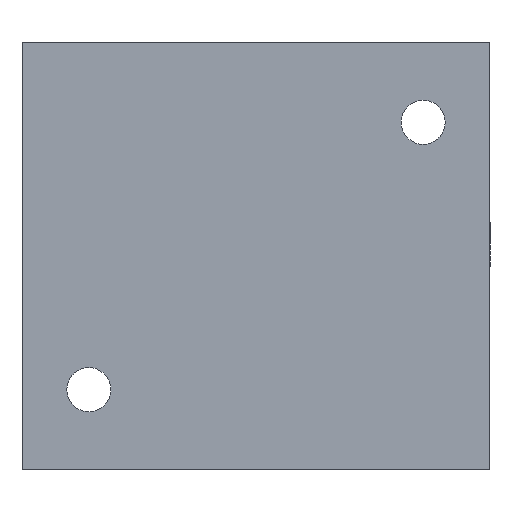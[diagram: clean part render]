
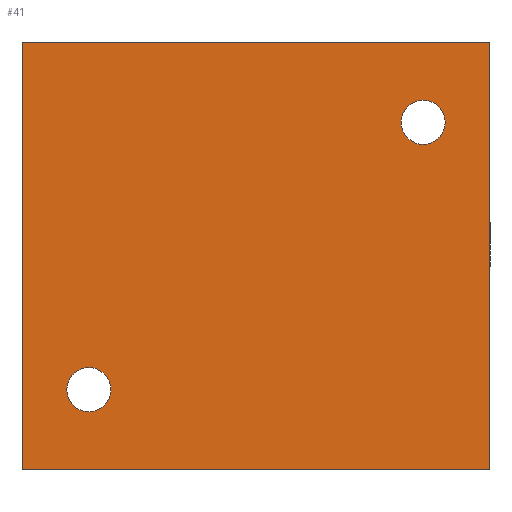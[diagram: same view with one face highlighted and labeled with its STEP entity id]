
A CAD part, front view. The second image highlights one B-rep face of the part: STEP entity #41.
In plain terms, the highlighted planar face has unit normal (0, -1, 0).
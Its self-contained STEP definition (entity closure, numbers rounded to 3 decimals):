
#15 = AXIS2_PLACEMENT_3D ( 'NONE', #529, #1664, #976 ) ;
#30 = CARTESIAN_POINT ( 'NONE',  ( 12.5, -14., 10. ) ) ;
#41 = ADVANCED_FACE ( 'NONE', ( #651, #153, #1462 ), #112, .F. ) ;
#112 = PLANE ( 'NONE',  #15 ) ;
#133 = EDGE_LOOP ( 'NONE', ( #876, #1208 ) ) ;
#153 = FACE_BOUND ( 'NONE', #1542, .T. ) ;
#219 = ORIENTED_EDGE ( 'NONE', *, *, #2066, .F. ) ;
#277 = VECTOR ( 'NONE', #1377, 1000. ) ;
#305 = CARTESIAN_POINT ( 'NONE',  ( -17.5, -14., -16. ) ) ;
#309 = CARTESIAN_POINT ( 'NONE',  ( -17.5, -14., 16. ) ) ;
#312 = CIRCLE ( 'NONE', #812, 1.65 ) ;
#473 = DIRECTION ( 'NONE',  ( 0., 0., -1. ) ) ;
#484 = CARTESIAN_POINT ( 'NONE',  ( 12.5, -14., 10. ) ) ;
#521 = LINE ( 'NONE', #535, #277 ) ;
#529 = CARTESIAN_POINT ( 'NONE',  ( -17.5, -14., 16. ) ) ;
#535 = CARTESIAN_POINT ( 'NONE',  ( -17.5, -14., -16. ) ) ;
#561 = DIRECTION ( 'NONE',  ( 0., 0., -1. ) ) ;
#621 = DIRECTION ( 'NONE',  ( 0., -1., 0. ) ) ;
#625 = LINE ( 'NONE', #309, #1838 ) ;
#640 = DIRECTION ( 'NONE',  ( 0., -1., 0. ) ) ;
#651 = FACE_BOUND ( 'NONE', #133, .T. ) ;
#670 = CIRCLE ( 'NONE', #1247, 1.65 ) ;
#676 = DIRECTION ( 'NONE',  ( 1., 0., 0. ) ) ;
#757 = EDGE_CURVE ( 'NONE', #1113, #1836, #670, .T. ) ;
#812 = AXIS2_PLACEMENT_3D ( 'NONE', #484, #640, #1309 ) ;
#817 = ORIENTED_EDGE ( 'NONE', *, *, #1936, .F. ) ;
#833 = DIRECTION ( 'NONE',  ( 0., 0., -1. ) ) ;
#859 = CARTESIAN_POINT ( 'NONE',  ( 17.5, -14., 16. ) ) ;
#876 = ORIENTED_EDGE ( 'NONE', *, *, #1248, .F. ) ;
#904 = CARTESIAN_POINT ( 'NONE',  ( 17.5, -14., -16. ) ) ;
#967 = EDGE_CURVE ( 'NONE', #1836, #1113, #1276, .T. ) ;
#976 = DIRECTION ( 'NONE',  ( 0., 0., 1. ) ) ;
#993 = CIRCLE ( 'NONE', #1210, 1.65 ) ;
#1035 = CARTESIAN_POINT ( 'NONE',  ( 12.5, -14., 8.35 ) ) ;
#1066 = VERTEX_POINT ( 'NONE', #904 ) ;
#1113 = VERTEX_POINT ( 'NONE', #1399 ) ;
#1120 = EDGE_CURVE ( 'NONE', #2023, #1066, #521, .T. ) ;
#1181 = CARTESIAN_POINT ( 'NONE',  ( 17.5, -14., 16. ) ) ;
#1208 = ORIENTED_EDGE ( 'NONE', *, *, #1968, .F. ) ;
#1210 = AXIS2_PLACEMENT_3D ( 'NONE', #30, #1724, #561 ) ;
#1243 = ORIENTED_EDGE ( 'NONE', *, *, #757, .F. ) ;
#1247 = AXIS2_PLACEMENT_3D ( 'NONE', #1804, #621, #1659 ) ;
#1248 = EDGE_CURVE ( 'NONE', #1641, #1619, #993, .T. ) ;
#1270 = VECTOR ( 'NONE', #676, 1000. ) ;
#1276 = CIRCLE ( 'NONE', #1701, 1.65 ) ;
#1309 = DIRECTION ( 'NONE',  ( 0., 0., -1. ) ) ;
#1324 = VERTEX_POINT ( 'NONE', #1627 ) ;
#1353 = LINE ( 'NONE', #859, #1947 ) ;
#1369 = CARTESIAN_POINT ( 'NONE',  ( -12.5, -14., -8.35 ) ) ;
#1377 = DIRECTION ( 'NONE',  ( 1., 0., 0. ) ) ;
#1399 = CARTESIAN_POINT ( 'NONE',  ( -12.5, -14., -11.65 ) ) ;
#1400 = ORIENTED_EDGE ( 'NONE', *, *, #1925, .T. ) ;
#1462 = FACE_OUTER_BOUND ( 'NONE', #2069, .T. ) ;
#1473 = ORIENTED_EDGE ( 'NONE', *, *, #967, .F. ) ;
#1542 = EDGE_LOOP ( 'NONE', ( #1243, #1473 ) ) ;
#1570 = CARTESIAN_POINT ( 'NONE',  ( 12.5, -14., 11.65 ) ) ;
#1619 = VERTEX_POINT ( 'NONE', #1570 ) ;
#1627 = CARTESIAN_POINT ( 'NONE',  ( -17.5, -14., 16. ) ) ;
#1641 = VERTEX_POINT ( 'NONE', #1035 ) ;
#1650 = LINE ( 'NONE', #2018, #1270 ) ;
#1659 = DIRECTION ( 'NONE',  ( 0., 0., -1. ) ) ;
#1664 = DIRECTION ( 'NONE',  ( 0., 1., 0. ) ) ;
#1701 = AXIS2_PLACEMENT_3D ( 'NONE', #1898, #1710, #1861 ) ;
#1710 = DIRECTION ( 'NONE',  ( 0., -1., 0. ) ) ;
#1724 = DIRECTION ( 'NONE',  ( 0., -1., 0. ) ) ;
#1804 = CARTESIAN_POINT ( 'NONE',  ( -12.5, -14., -10. ) ) ;
#1836 = VERTEX_POINT ( 'NONE', #1369 ) ;
#1838 = VECTOR ( 'NONE', #473, 1000. ) ;
#1848 = VERTEX_POINT ( 'NONE', #1181 ) ;
#1859 = ORIENTED_EDGE ( 'NONE', *, *, #1120, .T. ) ;
#1861 = DIRECTION ( 'NONE',  ( 0., 0., -1. ) ) ;
#1898 = CARTESIAN_POINT ( 'NONE',  ( -12.5, -14., -10. ) ) ;
#1925 = EDGE_CURVE ( 'NONE', #1324, #2023, #625, .T. ) ;
#1936 = EDGE_CURVE ( 'NONE', #1324, #1848, #1650, .T. ) ;
#1947 = VECTOR ( 'NONE', #833, 1000. ) ;
#1968 = EDGE_CURVE ( 'NONE', #1619, #1641, #312, .T. ) ;
#2018 = CARTESIAN_POINT ( 'NONE',  ( -17.5, -14., 16. ) ) ;
#2023 = VERTEX_POINT ( 'NONE', #305 ) ;
#2066 = EDGE_CURVE ( 'NONE', #1848, #1066, #1353, .T. ) ;
#2069 = EDGE_LOOP ( 'NONE', ( #1859, #219, #817, #1400 ) ) ;
